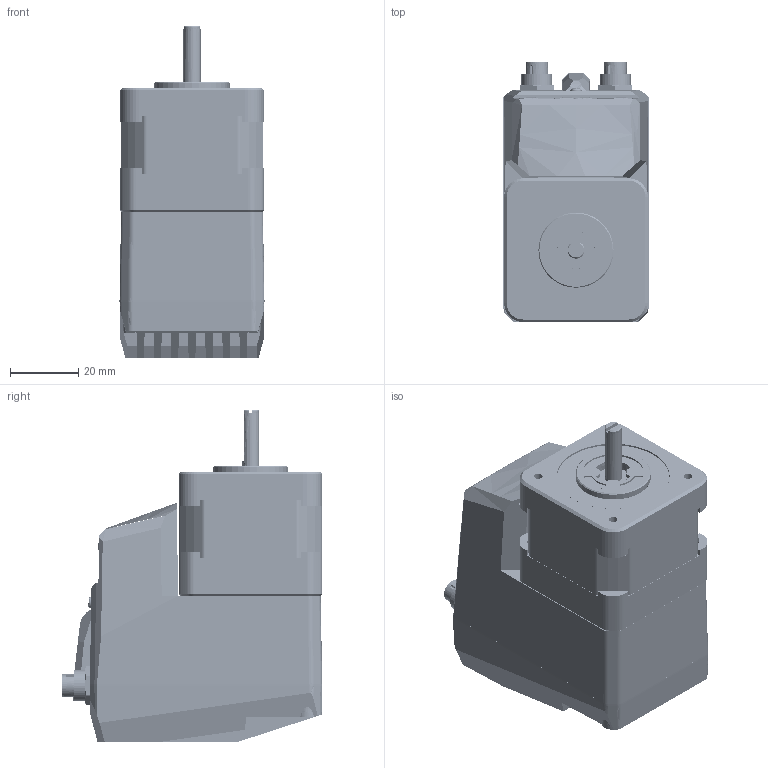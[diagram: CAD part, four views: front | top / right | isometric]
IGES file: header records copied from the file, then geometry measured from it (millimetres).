
Start section: SolidWorks IGES file using analytic representation for surfaces
Global section: file name: \\myodrive\Public\CAD Files\Motors\CoolmuscleMotors\CM1-InterfaceOptions\CM1 EtherCAT\CM1-E-17\CM1-E-17S30.IGS; native system: SolidWorks 2018; preprocessor: SolidWorks 2018; author: Chris Murray; date: 180518.144645; units: millimetre
Bounding box: 42.42 x 76.22 x 97.12 mm (x, y, z)
Surface area: 51420.3 mm2 (no closed solid volume)
Topology: 0 solids, 0 shells, 2506 faces, 26293 edges, 26267 vertices
Faces by surface type: bspline 1634, revolution 872
